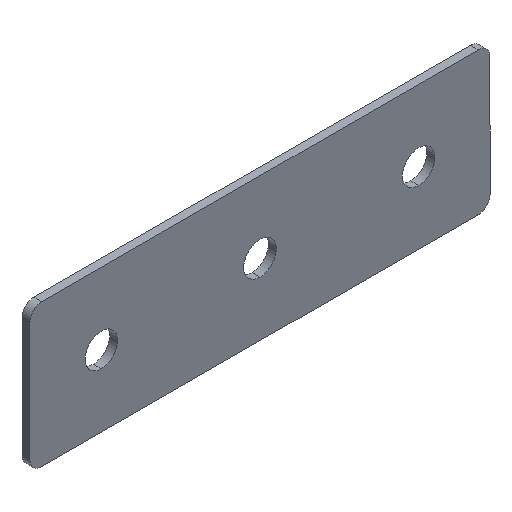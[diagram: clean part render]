
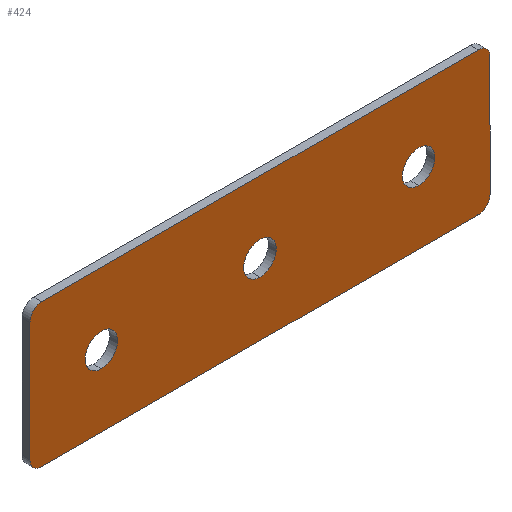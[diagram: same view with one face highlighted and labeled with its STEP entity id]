
A CAD part, isometric view. The second image highlights one B-rep face of the part: STEP entity #424.
In plain terms, the highlighted planar face has unit normal (0, -1, 0).
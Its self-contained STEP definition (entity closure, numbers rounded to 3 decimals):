
#4 = ORIENTED_EDGE ( 'NONE', *, *, #63, .T. ) ;
#7 = ORIENTED_EDGE ( 'NONE', *, *, #83, .T. ) ;
#8 = CARTESIAN_POINT ( 'NONE',  ( 47.865, 0., 9.1 ) ) ;
#10 = VERTEX_POINT ( 'NONE', #404 ) ;
#11 = DIRECTION ( 'NONE',  ( 0., 0., 1. ) ) ;
#12 = CARTESIAN_POINT ( 'NONE',  ( 87.865, 0., 5. ) ) ;
#16 = AXIS2_PLACEMENT_3D ( 'NONE', #388, #300, #22 ) ;
#17 = EDGE_LOOP ( 'NONE', ( #506, #554, #409, #442, #267, #7, #125, #4 ) ) ;
#19 = CARTESIAN_POINT ( 'NONE',  ( 105.865, 0., -10.019 ) ) ;
#21 = VERTEX_POINT ( 'NONE', #224 ) ;
#22 = DIRECTION ( 'NONE',  ( 0., 0., 1. ) ) ;
#30 = PLANE ( 'NONE',  #396 ) ;
#35 = VERTEX_POINT ( 'NONE', #135 ) ;
#39 = VECTOR ( 'NONE', #11, 1000. ) ;
#51 = AXIS2_PLACEMENT_3D ( 'NONE', #410, #502, #596 ) ;
#53 = CARTESIAN_POINT ( 'NONE',  ( 87.865, 0., 9.1 ) ) ;
#63 = EDGE_CURVE ( 'NONE', #449, #150, #148, .T. ) ;
#68 = DIRECTION ( 'NONE',  ( 0., 0., 1. ) ) ;
#72 = EDGE_CURVE ( 'NONE', #94, #168, #368, .T. ) ;
#73 = ORIENTED_EDGE ( 'NONE', *, *, #425, .F. ) ;
#78 = CIRCLE ( 'NONE', #114, 4.1 ) ;
#83 = EDGE_CURVE ( 'NONE', #10, #326, #176, .T. ) ;
#85 = EDGE_LOOP ( 'NONE', ( #312, #455 ) ) ;
#90 = EDGE_CURVE ( 'NONE', #150, #362, #406, .T. ) ;
#93 = EDGE_CURVE ( 'NONE', #21, #134, #547, .T. ) ;
#94 = VERTEX_POINT ( 'NONE', #132 ) ;
#102 = DIRECTION ( 'NONE',  ( 0., -1., 0. ) ) ;
#103 = CARTESIAN_POINT ( 'NONE',  ( 102.885, 0., 20.019 ) ) ;
#111 = EDGE_CURVE ( 'NONE', #128, #399, #546, .T. ) ;
#114 = AXIS2_PLACEMENT_3D ( 'NONE', #295, #102, #476 ) ;
#118 = CARTESIAN_POINT ( 'NONE',  ( 87.865, 0., 0.9 ) ) ;
#121 = DIRECTION ( 'NONE',  ( 0., 0., -1. ) ) ;
#125 = ORIENTED_EDGE ( 'NONE', *, *, #178, .T. ) ;
#128 = VERTEX_POINT ( 'NONE', #53 ) ;
#131 = DIRECTION ( 'NONE',  ( 1., 0., 0. ) ) ;
#132 = CARTESIAN_POINT ( 'NONE',  ( 7.865, 0., 9.1 ) ) ;
#134 = VERTEX_POINT ( 'NONE', #377 ) ;
#135 = CARTESIAN_POINT ( 'NONE',  ( 105.865, 0., 20.019 ) ) ;
#145 = AXIS2_PLACEMENT_3D ( 'NONE', #597, #505, #279 ) ;
#148 = LINE ( 'NONE', #549, #337 ) ;
#150 = VERTEX_POINT ( 'NONE', #463 ) ;
#168 = VERTEX_POINT ( 'NONE', #185 ) ;
#169 = VERTEX_POINT ( 'NONE', #8 ) ;
#176 = LINE ( 'NONE', #324, #209 ) ;
#178 = EDGE_CURVE ( 'NONE', #326, #449, #329, .T. ) ;
#179 = CARTESIAN_POINT ( 'NONE',  ( 102.885, 0., 23. ) ) ;
#180 = ORIENTED_EDGE ( 'NONE', *, *, #370, .F. ) ;
#184 = FACE_BOUND ( 'NONE', #397, .T. ) ;
#185 = CARTESIAN_POINT ( 'NONE',  ( 7.865, 0., 0.9 ) ) ;
#188 = DIRECTION ( 'NONE',  ( 0., -1., 0. ) ) ;
#193 = DIRECTION ( 'NONE',  ( 0., 0., -1. ) ) ;
#196 = CARTESIAN_POINT ( 'NONE',  ( -7.154, 0., 20.019 ) ) ;
#198 = LINE ( 'NONE', #570, #39 ) ;
#202 = CARTESIAN_POINT ( 'NONE',  ( -10.135, 0., -10.019 ) ) ;
#209 = VECTOR ( 'NONE', #366, 1000. ) ;
#212 = DIRECTION ( 'NONE',  ( 0., -1., 0. ) ) ;
#217 = FACE_OUTER_BOUND ( 'NONE', #17, .T. ) ;
#218 = VERTEX_POINT ( 'NONE', #349 ) ;
#224 = CARTESIAN_POINT ( 'NONE',  ( 102.885, 0., 23. ) ) ;
#234 = DIRECTION ( 'NONE',  ( 0., 0., 1. ) ) ;
#238 = DIRECTION ( 'NONE',  ( 0., 0., -1. ) ) ;
#242 = AXIS2_PLACEMENT_3D ( 'NONE', #12, #422, #234 ) ;
#245 = DIRECTION ( 'NONE',  ( 0., 0., -1. ) ) ;
#253 = EDGE_CURVE ( 'NONE', #35, #21, #539, .T. ) ;
#264 = CIRCLE ( 'NONE', #592, 2.981 ) ;
#267 = ORIENTED_EDGE ( 'NONE', *, *, #361, .T. ) ;
#269 = EDGE_LOOP ( 'NONE', ( #73, #180 ) ) ;
#271 = EDGE_CURVE ( 'NONE', #168, #94, #78, .T. ) ;
#274 = AXIS2_PLACEMENT_3D ( 'NONE', #103, #379, #245 ) ;
#279 = DIRECTION ( 'NONE',  ( 0., 0., -1. ) ) ;
#295 = CARTESIAN_POINT ( 'NONE',  ( 7.865, 0., 5. ) ) ;
#300 = DIRECTION ( 'NONE',  ( 0., -1., 0. ) ) ;
#302 = ORIENTED_EDGE ( 'NONE', *, *, #501, .F. ) ;
#311 = VECTOR ( 'NONE', #375, 1000. ) ;
#312 = ORIENTED_EDGE ( 'NONE', *, *, #271, .F. ) ;
#324 = CARTESIAN_POINT ( 'NONE',  ( -10.135, 0., 20.019 ) ) ;
#326 = VERTEX_POINT ( 'NONE', #202 ) ;
#329 = CIRCLE ( 'NONE', #508, 2.981 ) ;
#337 = VECTOR ( 'NONE', #131, 1000. ) ;
#348 = ORIENTED_EDGE ( 'NONE', *, *, #111, .F. ) ;
#349 = CARTESIAN_POINT ( 'NONE',  ( 47.865, 0., 0.9 ) ) ;
#356 = CARTESIAN_POINT ( 'NONE',  ( 47.865, 0., 5. ) ) ;
#361 = EDGE_CURVE ( 'NONE', #134, #10, #264, .T. ) ;
#362 = VERTEX_POINT ( 'NONE', #19 ) ;
#366 = DIRECTION ( 'NONE',  ( 0., 0., -1. ) ) ;
#367 = AXIS2_PLACEMENT_3D ( 'NONE', #464, #475, #68 ) ;
#368 = CIRCLE ( 'NONE', #51, 4.1 ) ;
#370 = EDGE_CURVE ( 'NONE', #169, #218, #588, .T. ) ;
#375 = DIRECTION ( 'NONE',  ( -1., 0., 0. ) ) ;
#377 = CARTESIAN_POINT ( 'NONE',  ( -7.154, 0., 23. ) ) ;
#379 = DIRECTION ( 'NONE',  ( 0., -1., 0. ) ) ;
#387 = FACE_BOUND ( 'NONE', #85, .T. ) ;
#388 = CARTESIAN_POINT ( 'NONE',  ( 47.865, 0., 5. ) ) ;
#396 = AXIS2_PLACEMENT_3D ( 'NONE', #580, #212, #121 ) ;
#397 = EDGE_LOOP ( 'NONE', ( #302, #348 ) ) ;
#399 = VERTEX_POINT ( 'NONE', #118 ) ;
#401 = CIRCLE ( 'NONE', #491, 4.1 ) ;
#404 = CARTESIAN_POINT ( 'NONE',  ( -10.135, 0., 20.019 ) ) ;
#406 = CIRCLE ( 'NONE', #145, 2.981 ) ;
#409 = ORIENTED_EDGE ( 'NONE', *, *, #253, .T. ) ;
#410 = CARTESIAN_POINT ( 'NONE',  ( 7.865, 0., 5. ) ) ;
#414 = CARTESIAN_POINT ( 'NONE',  ( -7.154, 0., -10.019 ) ) ;
#422 = DIRECTION ( 'NONE',  ( 0., -1., 0. ) ) ;
#424 = ADVANCED_FACE ( 'NONE', ( #387, #593, #184, #217 ), #30, .T. ) ;
#425 = EDGE_CURVE ( 'NONE', #218, #169, #401, .T. ) ;
#440 = DIRECTION ( 'NONE',  ( 0., 0., 1. ) ) ;
#441 = CARTESIAN_POINT ( 'NONE',  ( -7.154, 0., -13. ) ) ;
#442 = ORIENTED_EDGE ( 'NONE', *, *, #93, .T. ) ;
#449 = VERTEX_POINT ( 'NONE', #441 ) ;
#455 = ORIENTED_EDGE ( 'NONE', *, *, #72, .F. ) ;
#463 = CARTESIAN_POINT ( 'NONE',  ( 102.885, 0., -13. ) ) ;
#464 = CARTESIAN_POINT ( 'NONE',  ( 87.865, 0., 5. ) ) ;
#469 = DIRECTION ( 'NONE',  ( 0., -1., 0. ) ) ;
#475 = DIRECTION ( 'NONE',  ( 0., -1., 0. ) ) ;
#476 = DIRECTION ( 'NONE',  ( 0., 0., 1. ) ) ;
#485 = DIRECTION ( 'NONE',  ( 0., -1., 0. ) ) ;
#491 = AXIS2_PLACEMENT_3D ( 'NONE', #356, #485, #440 ) ;
#501 = EDGE_CURVE ( 'NONE', #399, #128, #529, .T. ) ;
#502 = DIRECTION ( 'NONE',  ( 0., -1., 0. ) ) ;
#505 = DIRECTION ( 'NONE',  ( 0., -1., 0. ) ) ;
#506 = ORIENTED_EDGE ( 'NONE', *, *, #90, .T. ) ;
#508 = AXIS2_PLACEMENT_3D ( 'NONE', #414, #188, #238 ) ;
#529 = CIRCLE ( 'NONE', #367, 4.1 ) ;
#539 = CIRCLE ( 'NONE', #274, 2.981 ) ;
#546 = CIRCLE ( 'NONE', #242, 4.1 ) ;
#547 = LINE ( 'NONE', #179, #311 ) ;
#549 = CARTESIAN_POINT ( 'NONE',  ( -7.154, 0., -13. ) ) ;
#553 = EDGE_CURVE ( 'NONE', #362, #35, #198, .T. ) ;
#554 = ORIENTED_EDGE ( 'NONE', *, *, #553, .T. ) ;
#570 = CARTESIAN_POINT ( 'NONE',  ( 105.865, 0., -10.019 ) ) ;
#580 = CARTESIAN_POINT ( 'NONE',  ( 102.885, 0., -10.019 ) ) ;
#588 = CIRCLE ( 'NONE', #16, 4.1 ) ;
#592 = AXIS2_PLACEMENT_3D ( 'NONE', #196, #469, #193 ) ;
#593 = FACE_BOUND ( 'NONE', #269, .T. ) ;
#596 = DIRECTION ( 'NONE',  ( 0., 0., 1. ) ) ;
#597 = CARTESIAN_POINT ( 'NONE',  ( 102.885, 0., -10.019 ) ) ;
